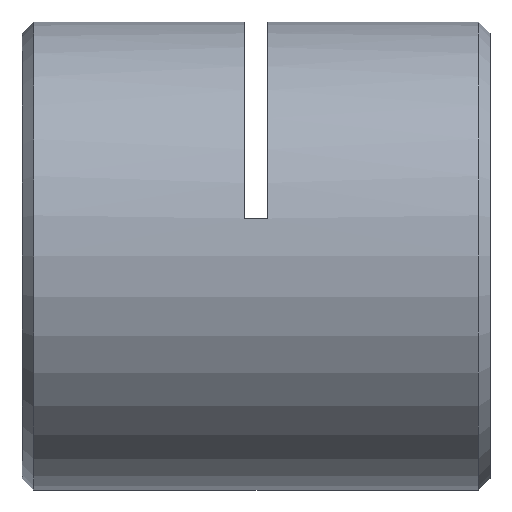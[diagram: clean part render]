
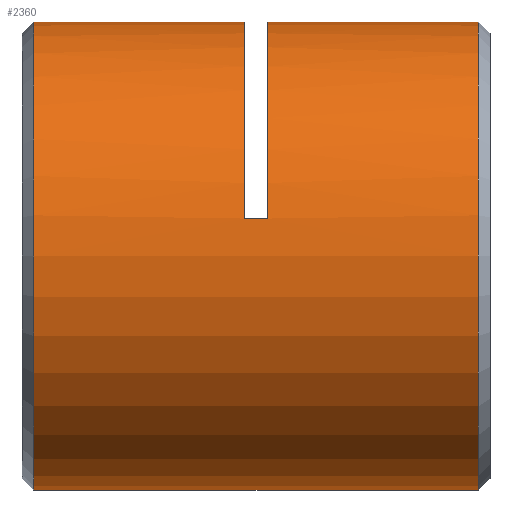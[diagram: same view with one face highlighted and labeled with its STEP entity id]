
A CAD part, left-side view. The second image highlights one B-rep face of the part: STEP entity #2360.
In plain terms, the highlighted cylindrical face has radius 8 mm (diameter 16 mm), a partial arc.
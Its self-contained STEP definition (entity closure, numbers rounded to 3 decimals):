
#44 = EDGE_CURVE ( 'NONE', #392, #2834, #1905, .T. ) ;
#49 = ORIENTED_EDGE ( 'NONE', *, *, #3504, .T. ) ;
#72 = EDGE_CURVE ( 'NONE', #3039, #1647, #2867, .T. ) ;
#127 = DIRECTION ( 'NONE',  ( 0., 0., -1. ) ) ;
#300 = DIRECTION ( 'NONE',  ( 0., 0., 1. ) ) ;
#380 = CARTESIAN_POINT ( 'NONE',  ( 0., 0.25, 8. ) ) ;
#392 = VERTEX_POINT ( 'NONE', #524 ) ;
#420 = EDGE_CURVE ( 'NONE', #1647, #561, #1201, .T. ) ;
#524 = CARTESIAN_POINT ( 'NONE',  ( 0., 0.65, 8. ) ) ;
#561 = VERTEX_POINT ( 'NONE', #3352 ) ;
#571 = LINE ( 'NONE', #380, #2452 ) ;
#629 = EDGE_CURVE ( 'NONE', #3039, #2834, #1472, .T. ) ;
#668 = DIRECTION ( 'NONE',  ( 0., 1., 0. ) ) ;
#671 = ORIENTED_EDGE ( 'NONE', *, *, #2468, .F. ) ;
#723 = DIRECTION ( 'NONE',  ( 0., 1., 0. ) ) ;
#730 = EDGE_CURVE ( 'NONE', #2897, #1427, #778, .T. ) ;
#742 = ORIENTED_EDGE ( 'NONE', *, *, #2268, .T. ) ;
#778 = CIRCLE ( 'NONE', #2063, 8. ) ;
#789 = EDGE_LOOP ( 'NONE', ( #671, #742, #3291, #3262, #2296, #1168, #49, #1852 ) ) ;
#801 = CARTESIAN_POINT ( 'NONE',  ( 0., 0.65, 0. ) ) ;
#1012 = CIRCLE ( 'NONE', #1232, 8. ) ;
#1033 = DIRECTION ( 'NONE',  ( 0., -1., 0. ) ) ;
#1072 = VECTOR ( 'NONE', #2809, 1000. ) ;
#1168 = ORIENTED_EDGE ( 'NONE', *, *, #420, .T. ) ;
#1201 = CIRCLE ( 'NONE', #2391, 8. ) ;
#1232 = AXIS2_PLACEMENT_3D ( 'NONE', #801, #3174, #1981 ) ;
#1285 = DIRECTION ( 'NONE',  ( 0., 0., 1. ) ) ;
#1342 = CARTESIAN_POINT ( 'NONE',  ( -7.897, 8.25, 1.28 ) ) ;
#1427 = VERTEX_POINT ( 'NONE', #3524 ) ;
#1472 = CIRCLE ( 'NONE', #2618, 8. ) ;
#1491 = VECTOR ( 'NONE', #723, 1000. ) ;
#1647 = VERTEX_POINT ( 'NONE', #2825 ) ;
#1770 = LINE ( 'NONE', #2953, #1491 ) ;
#1796 = CARTESIAN_POINT ( 'NONE',  ( -7.897, 7.85, 1.28 ) ) ;
#1842 = AXIS2_PLACEMENT_3D ( 'NONE', #2307, #2920, #3202 ) ;
#1852 = ORIENTED_EDGE ( 'NONE', *, *, #730, .T. ) ;
#1905 = LINE ( 'NONE', #3643, #1072 ) ;
#1929 = CYLINDRICAL_SURFACE ( 'NONE', #1842, 8. ) ;
#1981 = DIRECTION ( 'NONE',  ( 0., 0., 1. ) ) ;
#2063 = AXIS2_PLACEMENT_3D ( 'NONE', #3363, #1033, #127 ) ;
#2149 = CARTESIAN_POINT ( 'NONE',  ( 0., 0.65, -8. ) ) ;
#2235 = DIRECTION ( 'NONE',  ( 0., 1., 0. ) ) ;
#2268 = EDGE_CURVE ( 'NONE', #3131, #392, #1012, .T. ) ;
#2296 = ORIENTED_EDGE ( 'NONE', *, *, #72, .T. ) ;
#2307 = CARTESIAN_POINT ( 'NONE',  ( 0., 0.25, 0. ) ) ;
#2360 = ADVANCED_FACE ( 'NONE', ( #2801 ), #1929, .T. ) ;
#2391 = AXIS2_PLACEMENT_3D ( 'NONE', #3011, #2446, #1285 ) ;
#2446 = DIRECTION ( 'NONE',  ( 0., 1., 0. ) ) ;
#2452 = VECTOR ( 'NONE', #668, 1000. ) ;
#2468 = EDGE_CURVE ( 'NONE', #3131, #1427, #1770, .T. ) ;
#2587 = VECTOR ( 'NONE', #2235, 1000. ) ;
#2618 = AXIS2_PLACEMENT_3D ( 'NONE', #3259, #3542, #300 ) ;
#2801 = FACE_OUTER_BOUND ( 'NONE', #789, .T. ) ;
#2809 = DIRECTION ( 'NONE',  ( 0., 1., 0. ) ) ;
#2825 = CARTESIAN_POINT ( 'NONE',  ( -7.897, 8.65, 1.28 ) ) ;
#2834 = VERTEX_POINT ( 'NONE', #3114 ) ;
#2867 = LINE ( 'NONE', #1342, #2587 ) ;
#2897 = VERTEX_POINT ( 'NONE', #3372 ) ;
#2920 = DIRECTION ( 'NONE',  ( 0., 1., 0. ) ) ;
#2953 = CARTESIAN_POINT ( 'NONE',  ( 0., 0.25, -8. ) ) ;
#3011 = CARTESIAN_POINT ( 'NONE',  ( 0., 8.65, 0. ) ) ;
#3039 = VERTEX_POINT ( 'NONE', #1796 ) ;
#3114 = CARTESIAN_POINT ( 'NONE',  ( 0., 7.85, 8. ) ) ;
#3131 = VERTEX_POINT ( 'NONE', #2149 ) ;
#3174 = DIRECTION ( 'NONE',  ( 0., 1., 0. ) ) ;
#3202 = DIRECTION ( 'NONE',  ( 0., 0., 1. ) ) ;
#3259 = CARTESIAN_POINT ( 'NONE',  ( 0., 7.85, 0. ) ) ;
#3262 = ORIENTED_EDGE ( 'NONE', *, *, #629, .F. ) ;
#3291 = ORIENTED_EDGE ( 'NONE', *, *, #44, .T. ) ;
#3352 = CARTESIAN_POINT ( 'NONE',  ( 0., 8.65, 8. ) ) ;
#3363 = CARTESIAN_POINT ( 'NONE',  ( 0., 15.85, 0. ) ) ;
#3372 = CARTESIAN_POINT ( 'NONE',  ( 0., 15.85, 8. ) ) ;
#3504 = EDGE_CURVE ( 'NONE', #561, #2897, #571, .T. ) ;
#3524 = CARTESIAN_POINT ( 'NONE',  ( 0., 15.85, -8. ) ) ;
#3542 = DIRECTION ( 'NONE',  ( 0., 1., 0. ) ) ;
#3643 = CARTESIAN_POINT ( 'NONE',  ( 0., 0.25, 8. ) ) ;
